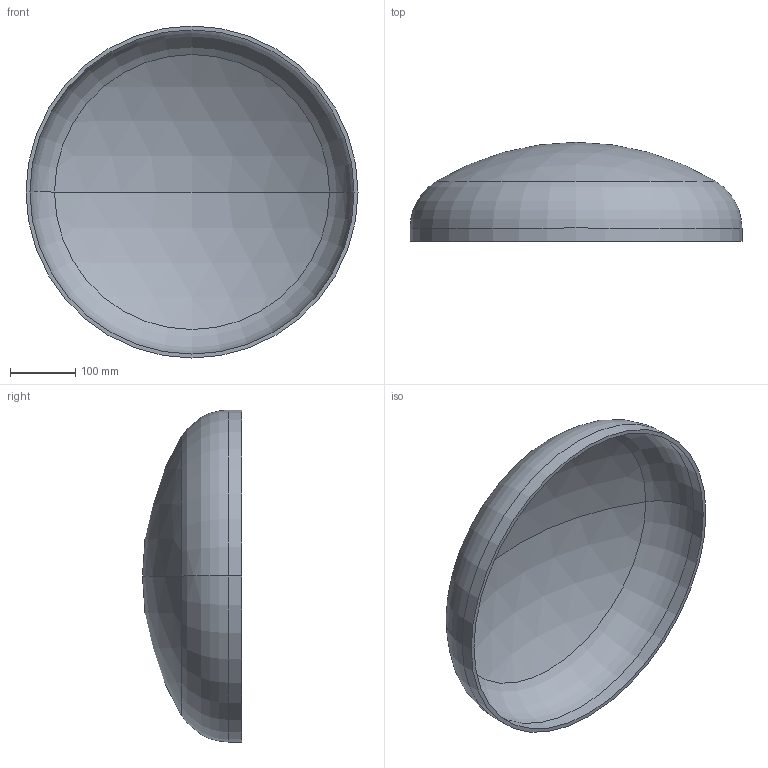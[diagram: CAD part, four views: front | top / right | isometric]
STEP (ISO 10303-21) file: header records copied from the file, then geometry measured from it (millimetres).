
FILE_DESCRIPTION (( 'STEP AP203' ), '1' );
FILE_NAME ('DIN 28013 Korbbogenform_-_Boden DIN 28013 - 508 x 20 - I - s=6.step', '2016-07-01T07:51:57', ( '' ), ( '' ), 'SwSTEP 2.0', 'SolidWorks 2013', '' );
FILE_SCHEMA (( 'CONFIG_CONTROL_DESIGN' ));
Length unit declared in the file: millimetre
Products named in the file (1): DIN 28013 Korbbogenform_-_Boden DIN 28013 - 508 x 20 - I - s=6
Bounding box: 508 x 151.49 x 508 mm (x, y, z)
Volume: 1846613.2 mm3; surface area: 625075.4 mm2
Topology: 1 solids, 1 shells, 13 faces, 24 edges, 14 vertices
Faces by surface type: torus 4, cylinder 4, sphere 4, plane 1
Entity records: 407 total; most frequent: DIRECTION 72, CARTESIAN_POINT 52, ORIENTED_EDGE 48, AXIS2_PLACEMENT_3D 34, EDGE_CURVE 24, CIRCLE 20, EDGE_LOOP 14, VERTEX_POINT 14
